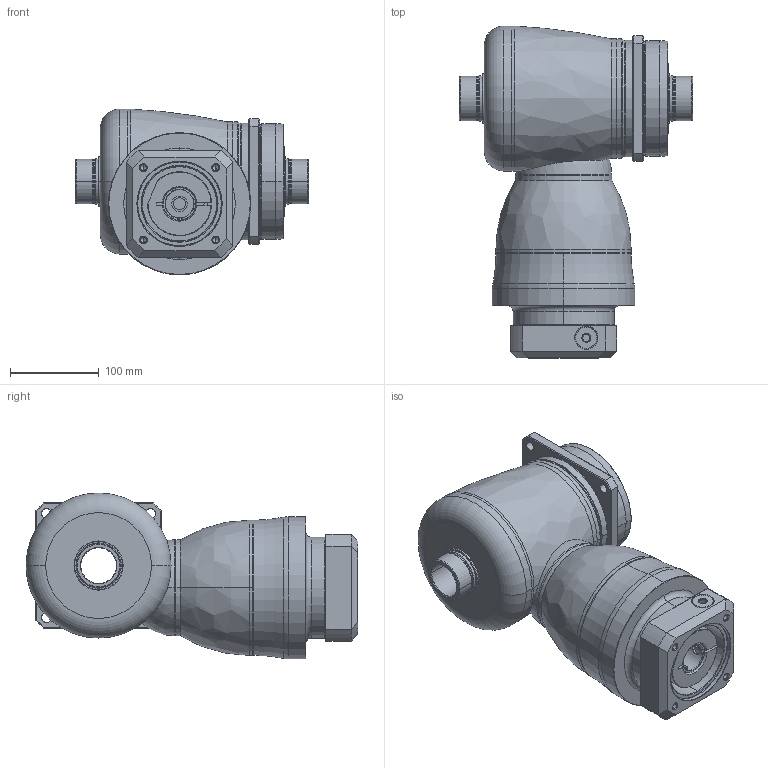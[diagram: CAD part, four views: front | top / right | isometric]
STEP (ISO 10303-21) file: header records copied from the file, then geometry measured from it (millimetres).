
FILE_DESCRIPTION((''),'2;1');
FILE_NAME('KF140_S4_2ST_32-P0409700101_ASM','2016-07-25T',('d01943'),(''),'PRO/ENGINEER BY PARAMETRIC TECHNOLOGY CORPORATION, 2008410','PRO/ENGINEER BY PARAMETRIC TECHNOLOGY CORPORATION, 2008410','');
FILE_SCHEMA(('CONFIG_CONTROL_DESIGN'));
Length unit declared in the file: millimetre
Products named in the file (11): P1008500002; P1804500001; P0914500001; P1315500001; P1007500001; P1317500301; P0409700101; P0503700010; P0912403001; 21711418017; KF140_S4_2ST_32-P0409700101_ASM
Assembly tree (10 placements, depth 2):
  KF140_S4_2ST_32-P0409700101_ASM
    P1008500002
    P1804500001
    P0914500001
    P1315500001
    P1007500001
    P1317500301
    P0409700101
    P0503700010
    P0912403001
    21711418017
Bounding box: 262 x 373 x 186.5 mm (x, y, z)
Volume: 5350643.3 mm3; surface area: 607390.6 mm2
Topology: 11 solids, 11 shells, 498 faces, 1098 edges, 646 vertices
Faces by surface type: cylinder 170, cone 134, plane 101, torus 70, bspline 21, sphere 2
Entity records: 18665 total; most frequent: CARTESIAN_POINT 7384, DIRECTION 2523, ORIENTED_EDGE 2160, EDGE_CURVE 1080, AXIS2_PLACEMENT_3D 1072, VERTEX_POINT 646, CIRCLE 574, EDGE_LOOP 570
